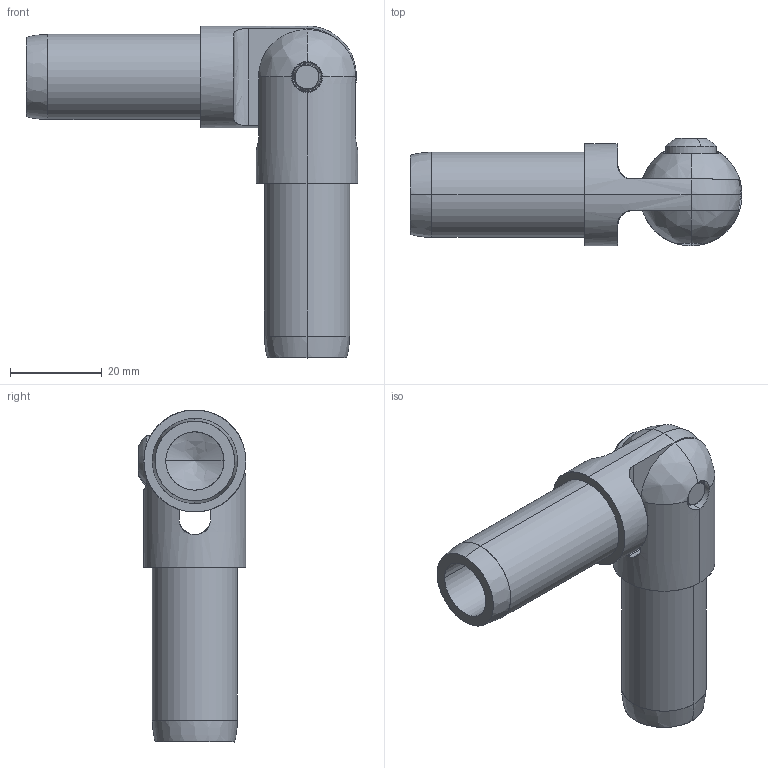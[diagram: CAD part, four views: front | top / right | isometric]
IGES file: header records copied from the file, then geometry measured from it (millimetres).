
Start section: SolidWorks IGES file using analytic representation for surfaces
Global section: file name: \\SERVER3\Design\_New Design Drive Folder List\_Design Vault\AAI\Modular Round Tube Connectors\Solidworks Models\STP Files\12202013\0.750 Inch Modular Connectors\Assemblies\0.75 Inch In-Plane Adjustable Angle 2-Tube Joint Kit.IGS; native system: SolidWorks 2013; preprocessor: SolidWorks 2013; author: tbraun; date: 140109.103618; units: inch
Bounding box: 72.38 x 23.48 x 72.38 mm (x, y, z)
Surface area: 14902.9 mm2 (no closed solid volume)
Topology: 0 solids, 0 shells, 215 faces, 2995 edges, 2989 vertices
Faces by surface type: revolution 167, bspline 48
